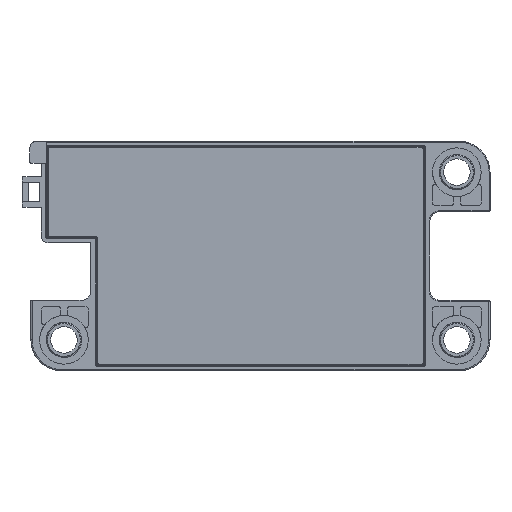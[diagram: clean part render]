
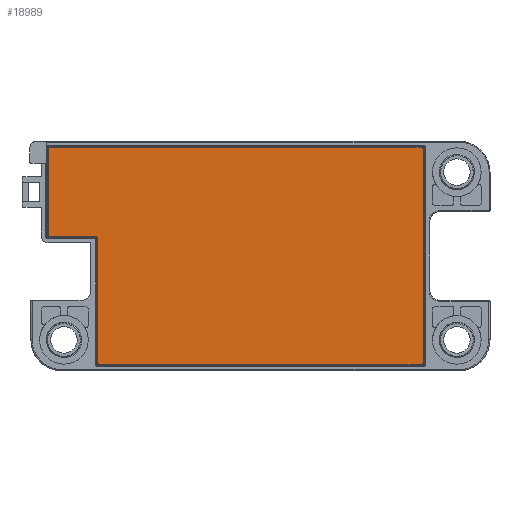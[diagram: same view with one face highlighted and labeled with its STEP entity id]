
A CAD part, front view. The second image highlights one B-rep face of the part: STEP entity #18989.
In plain terms, the highlighted planar face has unit normal (0, -1, 0) as drawn and (0, 1, 0) by its records, which use the part's own axes.
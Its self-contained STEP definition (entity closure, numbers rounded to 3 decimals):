
#74 = ORIENTED_EDGE ( 'NONE', *, *, #10657, .T. ) ;
#611 = VECTOR ( 'NONE', #4943, 1000. ) ;
#783 = CARTESIAN_POINT ( 'NONE',  ( 0., 1.5, 49.2 ) ) ;
#1656 = CARTESIAN_POINT ( 'NONE',  ( 0.5, 1.5, 0.5 ) ) ;
#3261 = VERTEX_POINT ( 'NONE', #5354 ) ;
#4448 = DIRECTION ( 'NONE',  ( 0., 0., -1. ) ) ;
#4943 = DIRECTION ( 'NONE',  ( 0., 0., 1. ) ) ;
#5177 = CARTESIAN_POINT ( 'NONE',  ( 0., 1.5, 0.2 ) ) ;
#5354 = CARTESIAN_POINT ( 'NONE',  ( 84.9, 1.5, 49.2 ) ) ;
#5530 = VECTOR ( 'NONE', #47803, 1000. ) ;
#7269 = DIRECTION ( 'NONE',  ( -1., 0., 0. ) ) ;
#7482 = EDGE_CURVE ( 'NONE', #24513, #3261, #50085, .T. ) ;
#8034 = ORIENTED_EDGE ( 'NONE', *, *, #29412, .T. ) ;
#8209 = CIRCLE ( 'NONE', #15151, 0.3 ) ;
#8508 = ORIENTED_EDGE ( 'NONE', *, *, #42512, .T. ) ;
#8958 = EDGE_CURVE ( 'NONE', #39942, #24153, #39998, .T. ) ;
#9478 = LINE ( 'NONE', #54133, #32691 ) ;
#10082 = DIRECTION ( 'NONE',  ( 0., 1., 0. ) ) ;
#10657 = EDGE_CURVE ( 'NONE', #35675, #17971, #21054, .T. ) ;
#10725 = CARTESIAN_POINT ( 'NONE',  ( 0.5, 1.5, 0.2 ) ) ;
#11771 = DIRECTION ( 'NONE',  ( 0., 0., -1. ) ) ;
#12343 = CARTESIAN_POINT ( 'NONE',  ( 73.7, 1.5, 0.2 ) ) ;
#12855 = DIRECTION ( 'NONE',  ( 0., 0., -1. ) ) ;
#12945 = ORIENTED_EDGE ( 'NONE', *, *, #55042, .T. ) ;
#14201 = DIRECTION ( 'NONE',  ( 0., 1., 0. ) ) ;
#14963 = ORIENTED_EDGE ( 'NONE', *, *, #8958, .T. ) ;
#15151 = AXIS2_PLACEMENT_3D ( 'NONE', #45360, #32827, #41436 ) ;
#15559 = CARTESIAN_POINT ( 'NONE',  ( 84.9, 1.5, 29.5 ) ) ;
#15887 = ORIENTED_EDGE ( 'NONE', *, *, #36349, .T. ) ;
#16303 = CARTESIAN_POINT ( 'NONE',  ( 73.7, 1.5, 0.5 ) ) ;
#16928 = DIRECTION ( 'NONE',  ( 0., -1., 0. ) ) ;
#17904 = EDGE_CURVE ( 'NONE', #3261, #54060, #40344, .T. ) ;
#17971 = VERTEX_POINT ( 'NONE', #44113 ) ;
#18762 = CARTESIAN_POINT ( 'NONE',  ( 84.9, 1.5, 48.9 ) ) ;
#18989 = ADVANCED_FACE ( 'NONE', ( #50868 ), #51552, .F. ) ;
#20266 = ORIENTED_EDGE ( 'NONE', *, *, #50904, .T. ) ;
#20655 = LINE ( 'NONE', #22279, #611 ) ;
#21054 = CIRCLE ( 'NONE', #37707, 0.7 ) ;
#21426 = VERTEX_POINT ( 'NONE', #36061 ) ;
#22279 = CARTESIAN_POINT ( 'NONE',  ( 0.2, 1.5, 0. ) ) ;
#24108 = LINE ( 'NONE', #33636, #51427 ) ;
#24132 = LINE ( 'NONE', #5177, #28816 ) ;
#24153 = VERTEX_POINT ( 'NONE', #39002 ) ;
#24513 = VERTEX_POINT ( 'NONE', #40677 ) ;
#26203 = EDGE_CURVE ( 'NONE', #21426, #53218, #20655, .T. ) ;
#26211 = VECTOR ( 'NONE', #38607, 1000. ) ;
#26407 = CARTESIAN_POINT ( 'NONE',  ( 0., 1.5, 0. ) ) ;
#28568 = VERTEX_POINT ( 'NONE', #10725 ) ;
#28816 = VECTOR ( 'NONE', #42618, 1000. ) ;
#29412 = EDGE_CURVE ( 'NONE', #41747, #28568, #24132, .T. ) ;
#29436 = CARTESIAN_POINT ( 'NONE',  ( 74., 1.5, 0.5 ) ) ;
#29646 = CIRCLE ( 'NONE', #41710, 0.3 ) ;
#29809 = EDGE_LOOP ( 'NONE', ( #8034, #12945, #52062, #20266, #49542, #39112, #8508, #14963, #15887, #74, #54597, #46599 ) ) ;
#32226 = VERTEX_POINT ( 'NONE', #29436 ) ;
#32691 = VECTOR ( 'NONE', #7269, 1000. ) ;
#32790 = DIRECTION ( 'NONE',  ( 0., 1., 0. ) ) ;
#32827 = DIRECTION ( 'NONE',  ( 0., 1., 0. ) ) ;
#33024 = AXIS2_PLACEMENT_3D ( 'NONE', #15559, #32790, #45326 ) ;
#33369 = CIRCLE ( 'NONE', #37053, 0.3 ) ;
#33636 = CARTESIAN_POINT ( 'NONE',  ( 85.2, 1.5, 0. ) ) ;
#34318 = AXIS2_PLACEMENT_3D ( 'NONE', #26407, #34766, #4448 ) ;
#34766 = DIRECTION ( 'NONE',  ( 0., -1., 0. ) ) ;
#35675 = VERTEX_POINT ( 'NONE', #39210 ) ;
#36061 = CARTESIAN_POINT ( 'NONE',  ( 0.2, 1.5, 0.5 ) ) ;
#36349 = EDGE_CURVE ( 'NONE', #24153, #35675, #9478, .T. ) ;
#36758 = AXIS2_PLACEMENT_3D ( 'NONE', #18762, #10082, #48589 ) ;
#37053 = AXIS2_PLACEMENT_3D ( 'NONE', #16303, #45904, #50570 ) ;
#37524 = LINE ( 'NONE', #51245, #26211 ) ;
#37707 = AXIS2_PLACEMENT_3D ( 'NONE', #42432, #16928, #12855 ) ;
#38607 = DIRECTION ( 'NONE',  ( 0., 0., -1. ) ) ;
#39002 = CARTESIAN_POINT ( 'NONE',  ( 84.9, 1.5, 29.2 ) ) ;
#39112 = ORIENTED_EDGE ( 'NONE', *, *, #17904, .T. ) ;
#39210 = CARTESIAN_POINT ( 'NONE',  ( 74.7, 1.5, 29.2 ) ) ;
#39265 = CARTESIAN_POINT ( 'NONE',  ( 85.2, 1.5, 29.5 ) ) ;
#39942 = VERTEX_POINT ( 'NONE', #39265 ) ;
#39998 = CIRCLE ( 'NONE', #33024, 0.3 ) ;
#40248 = DIRECTION ( 'NONE',  ( 0., 0., -1. ) ) ;
#40344 = CIRCLE ( 'NONE', #36758, 0.3 ) ;
#40677 = CARTESIAN_POINT ( 'NONE',  ( 0.5, 1.5, 49.2 ) ) ;
#41436 = DIRECTION ( 'NONE',  ( 0., 0., -1. ) ) ;
#41710 = AXIS2_PLACEMENT_3D ( 'NONE', #1656, #14201, #40248 ) ;
#41747 = VERTEX_POINT ( 'NONE', #12343 ) ;
#42432 = CARTESIAN_POINT ( 'NONE',  ( 74.7, 1.5, 28.5 ) ) ;
#42512 = EDGE_CURVE ( 'NONE', #54060, #39942, #24108, .T. ) ;
#42618 = DIRECTION ( 'NONE',  ( -1., 0., 0. ) ) ;
#42807 = CARTESIAN_POINT ( 'NONE',  ( 0.2, 1.5, 48.9 ) ) ;
#44113 = CARTESIAN_POINT ( 'NONE',  ( 74., 1.5, 28.5 ) ) ;
#45326 = DIRECTION ( 'NONE',  ( 0., 0., -1. ) ) ;
#45360 = CARTESIAN_POINT ( 'NONE',  ( 0.5, 1.5, 48.9 ) ) ;
#45904 = DIRECTION ( 'NONE',  ( 0., 1., 0. ) ) ;
#46599 = ORIENTED_EDGE ( 'NONE', *, *, #53768, .T. ) ;
#47803 = DIRECTION ( 'NONE',  ( 1., 0., 0. ) ) ;
#48589 = DIRECTION ( 'NONE',  ( 0., 0., -1. ) ) ;
#49048 = CARTESIAN_POINT ( 'NONE',  ( 85.2, 1.5, 48.9 ) ) ;
#49542 = ORIENTED_EDGE ( 'NONE', *, *, #7482, .T. ) ;
#50085 = LINE ( 'NONE', #783, #5530 ) ;
#50570 = DIRECTION ( 'NONE',  ( 0., 0., -1. ) ) ;
#50868 = FACE_OUTER_BOUND ( 'NONE', #29809, .T. ) ;
#50904 = EDGE_CURVE ( 'NONE', #53218, #24513, #8209, .T. ) ;
#51245 = CARTESIAN_POINT ( 'NONE',  ( 74., 1.5, 0. ) ) ;
#51427 = VECTOR ( 'NONE', #11771, 1000. ) ;
#51552 = PLANE ( 'NONE',  #34318 ) ;
#52062 = ORIENTED_EDGE ( 'NONE', *, *, #26203, .T. ) ;
#52685 = EDGE_CURVE ( 'NONE', #17971, #32226, #37524, .T. ) ;
#53218 = VERTEX_POINT ( 'NONE', #42807 ) ;
#53768 = EDGE_CURVE ( 'NONE', #32226, #41747, #33369, .T. ) ;
#54060 = VERTEX_POINT ( 'NONE', #49048 ) ;
#54133 = CARTESIAN_POINT ( 'NONE',  ( 0., 1.5, 29.2 ) ) ;
#54597 = ORIENTED_EDGE ( 'NONE', *, *, #52685, .T. ) ;
#55042 = EDGE_CURVE ( 'NONE', #28568, #21426, #29646, .T. ) ;
